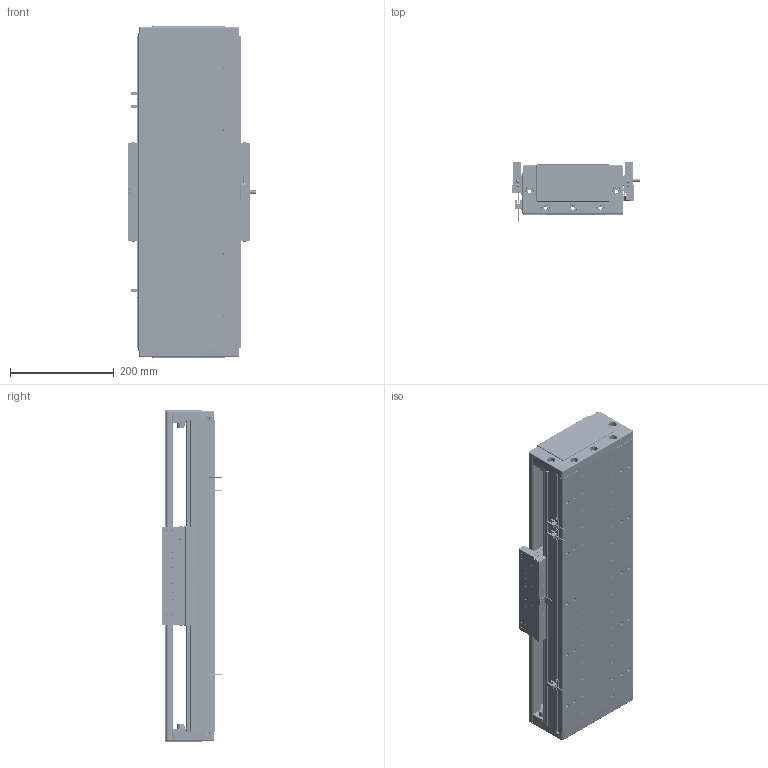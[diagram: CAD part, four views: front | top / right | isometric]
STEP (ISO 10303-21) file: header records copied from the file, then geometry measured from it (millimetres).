
FILE_DESCRIPTION (( 'STEP AP203' ), '1' );
FILE_NAME ('DA-C195-C2-T360-C010-0.2 眻盄萇儂.STEP', '2025-08-15T00:59:44', ( '' ), ( '' ), 'SwSTEP 2.0', 'SolidWorks 2019', '' );
FILE_SCHEMA (( 'CONFIG_CONTROL_DESIGN' ));
Length unit declared in the file: millimetre
Products named in the file (12): LMT黍杅芛; DA195-DG-H-00  端盖（压铸镂空版）; PM-T45ㄗ侂狟ㄘ; 葩璃 DA95-GT-T-00; DA-C195-C2-T360-C010-0.2 眻盄萇儂; 66156-0001-005-00 光电感应片(默认); CU195-C2賑輸-俋楷; IU-CU195-L 菁釱絳寢; MS200 棠掑喜S315-T240; 66156-0001-003-00 裔啣; DA95-HXJ-00 遣喳砎蝶; IU-CU195-L-00 菁釱(L600)
Assembly tree (20 placements, depth 3):
  DA-C195-C2-T360-C010-0.2 眻盄萇儂
    IU-CU195-L 菁釱絳寢
      IU-CU195-L-00 菁釱(L600)
      葩璃 DA95-GT-T-00  x4
    LMT黍杅芛
    MS200 棠掑喜S315-T240
    PM-T45ㄗ侂狟ㄘ  x3
    66156-0001-005-00 光电感应片(默认)
    DA195-DG-H-00  端盖（压铸镂空版）  x2
    DA95-HXJ-00 遣喳砎蝶  x4
    66156-0001-003-00 裔啣
    CU195-C2賑輸-俋楷
Bounding box: 248 x 115.6 x 640 mm (x, y, z)
Volume: 5165619.4 mm3; surface area: 1455650.3 mm2
Topology: 58 solids, 130 shells, 5013 faces, 12500 edges, 7545 vertices
Faces by surface type: cylinder 2037, plane 1626, bspline 710, cone 560, torus 44, sphere 36
Entity records: 132787 total; most frequent: CARTESIAN_POINT 40263, ORIENTED_EDGE 19054, DIRECTION 18744, EDGE_CURVE 9527, AXIS2_PLACEMENT_3D 6959, VERTEX_POINT 5975, LINE 4826, VECTOR 4826
